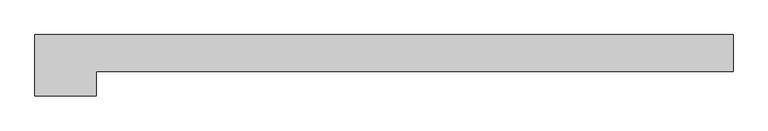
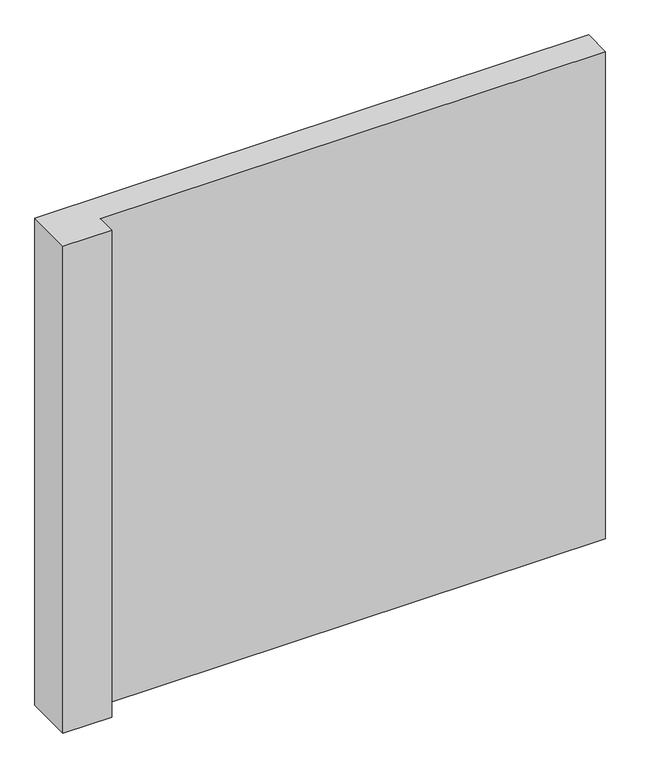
"""IFC4 building model written with IfcOpenShell, lengths in millimetres: column geometry, Columna Estructural Ele : ECO_Ele 25x285x25."""

from ifc_helpers import new_model, si_unit, frame, origin, place, context, project, spatial, polyline, outline, extrude, source, transform, mapped, element, save


def column_6181a052(model_context):
    return source(origin(), model_context, "Body", "SweptSolid", [
        extrude(outline(polyline([(125.0, -175.0), (-125.0, -175.0), (-125.0, 75.0), (2725.0, 75.0), (2725.0, -75.0), (125.0, -75.0), (125.0, -175.0)])), frame((0.0, 0.0, 13350.0), z_axis=(0.0, 0.0, 1.0), x_axis=(1.0, 0.0, 0.0)), (0.0, 0.0, 1.0), 2650.0),
    ])


if __name__ == "__main__":
    model = new_model("IFC4")
    model_context = context("Model", 3, world=origin())
    ifc_project = project(units=[si_unit("LENGTHUNIT", "METRE", prefix="MILLI")], contexts=[model_context])
    site = spatial("IfcSite", under=ifc_project)
    building = spatial("IfcBuilding", under=site)
    placement = place(None, origin())
    column_shape = column_6181a052(model_context)
    element("IfcColumn", 1, ObjectType="Columna Estructural Ele : ECO_Ele 25x285x25", at=placement, inside=building, context=model_context, shape_type="MappedRepresentation", body=[
        mapped(column_shape, transform((0.0, 0.0, 0.0), x_axis=(1.0, 0.0, 0.0), y_axis=(0.0, 1.0, 0.0), z_axis=(0.0, 0.0, 1.0))),
    ])
    save(model, "model.ifc")
